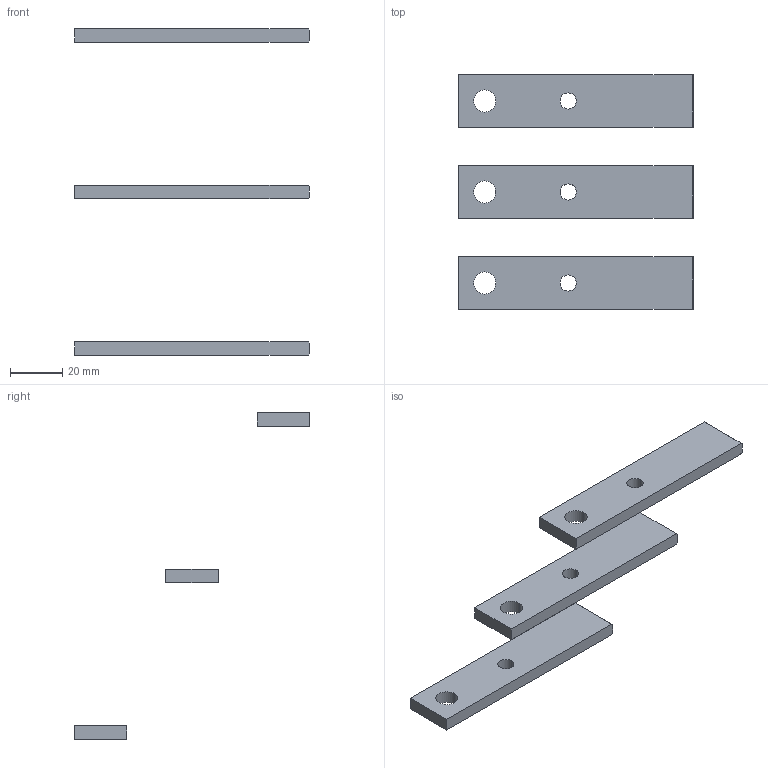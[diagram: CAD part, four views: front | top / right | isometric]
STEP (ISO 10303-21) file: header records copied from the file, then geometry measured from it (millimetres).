
FILE_DESCRIPTION(('CAx-IF Rec.Pracs.---Model Styling and Organization---1.2---2011-12-15','CAx-IF Rec.Pracs.---Geometric and Assembly Validation Properties---4.1---2014-06-16','CAx-IF Rec.Pracs.---PMI Polyline Presentation---2.0---2013-05-24'),'2;1');
FILE_NAME('R5M2WBB3P2.stp','2021-05-05T11:53:23+03:00',(''),(''),'STEP Interface 4.4 by CT CoreTechnologie','3D_Evolution4.4 by CT CoreTechnologie','');
FILE_SCHEMA(('AUTOMOTIVE_DESIGN { 1 0 10303 214 1 1 1 1 }'));
Length unit declared in the file: millimetre
Products named in the file (2): R5M2WBB3P2; RB.1291.00.00.0_-00
Assembly tree (3 placements, depth 2):
  R5M2WBB3P2
    RB.1291.00.00.0_-00  x3
Bounding box: 90 x 90 x 125 mm (x, y, z)
Surface area: 14234.5 mm2 (no closed solid volume)
Topology: 0 solids, 3 shells, 36 faces, 90 edges, 60 vertices
Faces by surface type: plane 24, cylinder 12
Entity records: 483 total; most frequent: DIRECTION 70, CARTESIAN_POINT 66, ORIENTED_EDGE 60, EDGE_CURVE 30, AXIS2_PLACEMENT_3D 24, VECTOR 22, LINE 22, VERTEX_POINT 20
